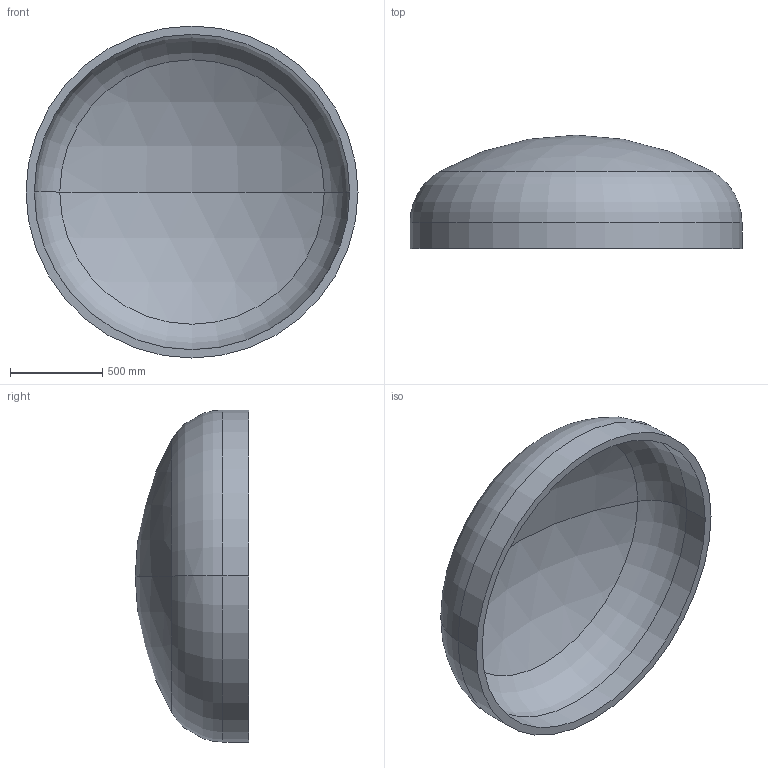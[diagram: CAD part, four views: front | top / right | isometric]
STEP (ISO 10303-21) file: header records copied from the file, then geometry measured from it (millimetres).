
FILE_DESCRIPTION (( 'STEP AP203' ), '1' );
FILE_NAME ('DIN 28013 Korbbogenform_-_Boden DIN 28013 - 1800 x 140 - I - s=45.step', '2016-07-01T12:31:50', ( '' ), ( '' ), 'SwSTEP 2.0', 'SolidWorks 2013', '' );
FILE_SCHEMA (( 'CONFIG_CONTROL_DESIGN' ));
Length unit declared in the file: millimetre
Products named in the file (1): DIN 28013 Korbbogenform_-_Boden DIN 28013 - 1800 x 140 - I - s=45
Bounding box: 1800 x 614.64 x 1800 mm (x, y, z)
Volume: 187971833.9 mm3; surface area: 8606649.7 mm2
Topology: 1 solids, 1 shells, 13 faces, 24 edges, 14 vertices
Faces by surface type: torus 4, cylinder 4, sphere 4, plane 1
Entity records: 407 total; most frequent: DIRECTION 72, CARTESIAN_POINT 52, ORIENTED_EDGE 48, AXIS2_PLACEMENT_3D 34, EDGE_CURVE 24, CIRCLE 20, EDGE_LOOP 14, VERTEX_POINT 14
